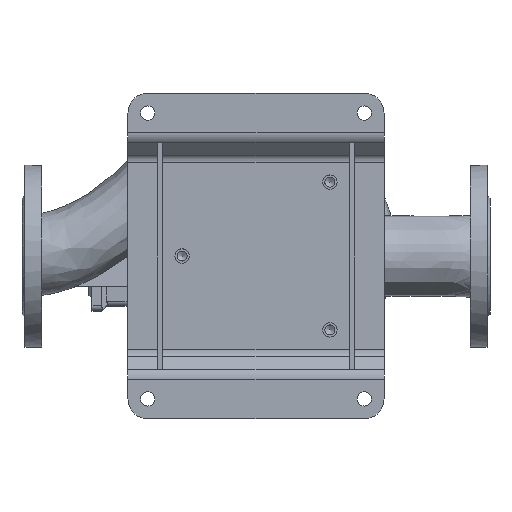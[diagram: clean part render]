
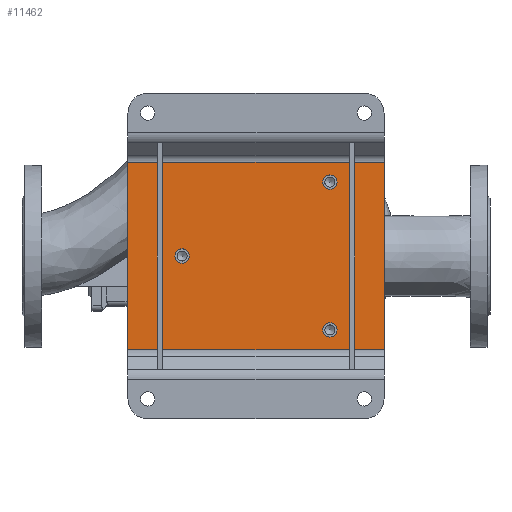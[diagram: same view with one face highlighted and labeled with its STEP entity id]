
A CAD part, top view. The second image highlights one B-rep face of the part: STEP entity #11462.
In plain terms, the highlighted planar face has unit normal (0, 0, 1) as drawn and (0, -1, 0) by its records, which use the part's own axes.
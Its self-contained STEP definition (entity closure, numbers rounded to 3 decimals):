
#106 = LINE ( 'NONE', #46094, #34043 ) ;
#1447 = EDGE_LOOP ( 'NONE', ( #39961 ) ) ;
#1734 = AXIS2_PLACEMENT_3D ( 'NONE', #3849, #35042, #11733 ) ;
#2333 = ORIENTED_EDGE ( 'NONE', *, *, #32426, .F. ) ;
#2956 = EDGE_LOOP ( 'NONE', ( #2333 ) ) ;
#3427 = CARTESIAN_POINT ( 'NONE',  ( -95., -5., -130. ) ) ;
#3849 = CARTESIAN_POINT ( 'NONE',  ( 75., -5., 75. ) ) ;
#6083 = DIRECTION ( 'NONE',  ( 0., 0., -1. ) ) ;
#7453 = ORIENTED_EDGE ( 'NONE', *, *, #36526, .F. ) ;
#7499 = DIRECTION ( 'NONE',  ( 1., 0., 0. ) ) ;
#7979 = DIRECTION ( 'NONE',  ( -1., 0., 0. ) ) ;
#8827 = EDGE_LOOP ( 'NONE', ( #17464, #7453, #27127, #16858 ) ) ;
#10118 = FACE_OUTER_BOUND ( 'NONE', #8827, .T. ) ;
#11462 = ADVANCED_FACE ( 'NONE', ( #29391, #44667, #44921, #10118 ), #37000, .T. ) ;
#11550 = CARTESIAN_POINT ( 'NONE',  ( -75., -5., 67.75 ) ) ;
#11562 = DIRECTION ( 'NONE',  ( 0., -1., 0. ) ) ;
#11733 = DIRECTION ( 'NONE',  ( 0., 0., -1. ) ) ;
#12258 = CARTESIAN_POINT ( 'NONE',  ( 95., -5., 130. ) ) ;
#13016 = LINE ( 'NONE', #42270, #26956 ) ;
#14607 = VERTEX_POINT ( 'NONE', #21712 ) ;
#14727 = CIRCLE ( 'NONE', #1734, 7.25 ) ;
#15740 = VERTEX_POINT ( 'NONE', #43338 ) ;
#16155 = CARTESIAN_POINT ( 'NONE',  ( 0., -5., -75. ) ) ;
#16858 = ORIENTED_EDGE ( 'NONE', *, *, #18865, .F. ) ;
#17464 = ORIENTED_EDGE ( 'NONE', *, *, #45256, .F. ) ;
#18649 = ORIENTED_EDGE ( 'NONE', *, *, #29894, .F. ) ;
#18865 = EDGE_CURVE ( 'NONE', #15740, #18902, #106, .T. ) ;
#18902 = VERTEX_POINT ( 'NONE', #3427 ) ;
#19426 = DIRECTION ( 'NONE',  ( 0., 0., -1. ) ) ;
#19871 = CARTESIAN_POINT ( 'NONE',  ( -95., -5., 130. ) ) ;
#21712 = CARTESIAN_POINT ( 'NONE',  ( 75., -5., 67.75 ) ) ;
#22542 = VECTOR ( 'NONE', #34560, 1000. ) ;
#23036 = CIRCLE ( 'NONE', #30285, 7.25 ) ;
#23808 = EDGE_CURVE ( 'NONE', #14607, #14607, #14727, .T. ) ;
#24008 = DIRECTION ( 'NONE',  ( 0., -1., 0. ) ) ;
#24591 = VECTOR ( 'NONE', #27209, 1000. ) ;
#25588 = CARTESIAN_POINT ( 'NONE',  ( 0., -5., 0. ) ) ;
#26956 = VECTOR ( 'NONE', #7499, 1000. ) ;
#27045 = EDGE_LOOP ( 'NONE', ( #18649 ) ) ;
#27127 = ORIENTED_EDGE ( 'NONE', *, *, #33673, .F. ) ;
#27209 = DIRECTION ( 'NONE',  ( 0., 0., 1. ) ) ;
#27296 = DIRECTION ( 'NONE',  ( 0., 0., -1. ) ) ;
#28009 = AXIS2_PLACEMENT_3D ( 'NONE', #50181, #11562, #19426 ) ;
#29391 = FACE_BOUND ( 'NONE', #1447, .T. ) ;
#29894 = EDGE_CURVE ( 'NONE', #31315, #31315, #37756, .T. ) ;
#30285 = AXIS2_PLACEMENT_3D ( 'NONE', #16155, #24008, #27296 ) ;
#31315 = VERTEX_POINT ( 'NONE', #11550 ) ;
#32426 = EDGE_CURVE ( 'NONE', #38697, #38697, #23036, .T. ) ;
#33673 = EDGE_CURVE ( 'NONE', #18902, #35850, #35561, .T. ) ;
#33983 = CARTESIAN_POINT ( 'NONE',  ( 95., -5., 130. ) ) ;
#34043 = VECTOR ( 'NONE', #7979, 1000. ) ;
#34560 = DIRECTION ( 'NONE',  ( 0., 0., -1. ) ) ;
#35042 = DIRECTION ( 'NONE',  ( 0., -1., 0. ) ) ;
#35561 = LINE ( 'NONE', #19871, #24591 ) ;
#35850 = VERTEX_POINT ( 'NONE', #41323 ) ;
#36526 = EDGE_CURVE ( 'NONE', #35850, #48459, #13016, .T. ) ;
#37000 = PLANE ( 'NONE',  #38706 ) ;
#37756 = CIRCLE ( 'NONE', #28009, 7.25 ) ;
#38392 = LINE ( 'NONE', #12258, #22542 ) ;
#38697 = VERTEX_POINT ( 'NONE', #46095 ) ;
#38706 = AXIS2_PLACEMENT_3D ( 'NONE', #25588, #48497, #6083 ) ;
#39961 = ORIENTED_EDGE ( 'NONE', *, *, #23808, .F. ) ;
#41323 = CARTESIAN_POINT ( 'NONE',  ( -95., -5., 130. ) ) ;
#42270 = CARTESIAN_POINT ( 'NONE',  ( -95., -5., 130. ) ) ;
#43338 = CARTESIAN_POINT ( 'NONE',  ( 95., -5., -130. ) ) ;
#44667 = FACE_BOUND ( 'NONE', #2956, .T. ) ;
#44921 = FACE_BOUND ( 'NONE', #27045, .T. ) ;
#45256 = EDGE_CURVE ( 'NONE', #48459, #15740, #38392, .T. ) ;
#46094 = CARTESIAN_POINT ( 'NONE',  ( -95., -5., -130. ) ) ;
#46095 = CARTESIAN_POINT ( 'NONE',  ( 0., -5., -82.25 ) ) ;
#48459 = VERTEX_POINT ( 'NONE', #33983 ) ;
#48497 = DIRECTION ( 'NONE',  ( 0., -1., 0. ) ) ;
#50181 = CARTESIAN_POINT ( 'NONE',  ( -75., -5., 75. ) ) ;
